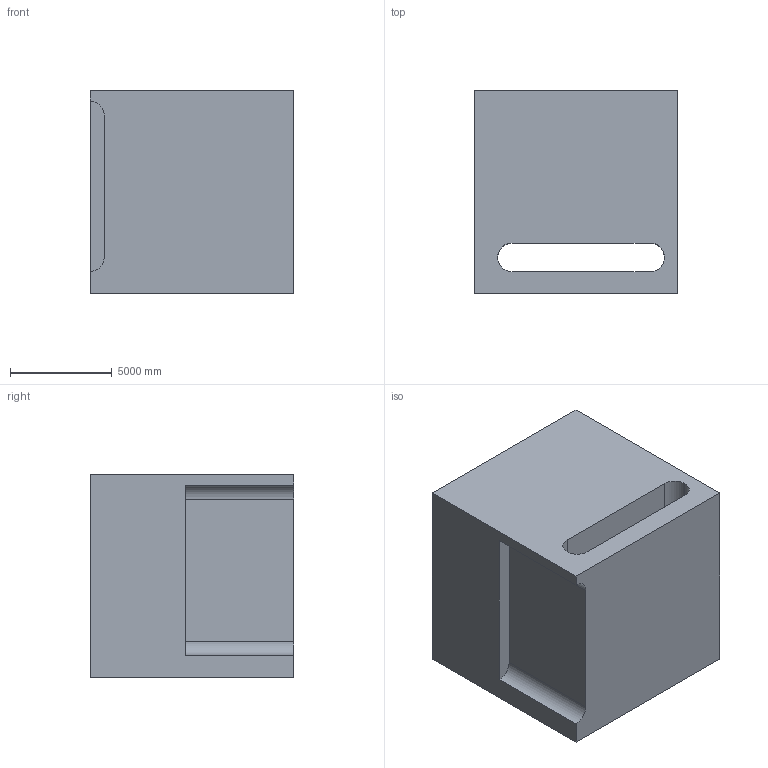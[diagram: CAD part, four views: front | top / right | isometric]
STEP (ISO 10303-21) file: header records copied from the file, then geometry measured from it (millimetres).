
FILE_DESCRIPTION (( 'STEP AP203' ), '1' );
FILE_NAME ('17.STEP', '2022-08-31T11:10:28', ( 'user' ), ( '' ), 'SwSTEP 2.0', 'SolidWorks 2021', '' );
FILE_SCHEMA (( 'CONFIG_CONTROL_DESIGN' ));
Length unit declared in the file: centimetre
Products named in the file (1): 17
Bounding box: 10000 x 10000 x 10000 mm (x, y, z)
Volume: 858863796505.8 mm3; surface area: 761968560.3 mm2
Topology: 1 solids, 1 shells, 15 faces, 39 edges, 26 vertices
Faces by surface type: plane 10, cylinder 5
Entity records: 544 total; most frequent: CARTESIAN_POINT 81, DIRECTION 81, ORIENTED_EDGE 78, EDGE_CURVE 39, LINE 29, VECTOR 29, AXIS2_PLACEMENT_3D 26, VERTEX_POINT 26
